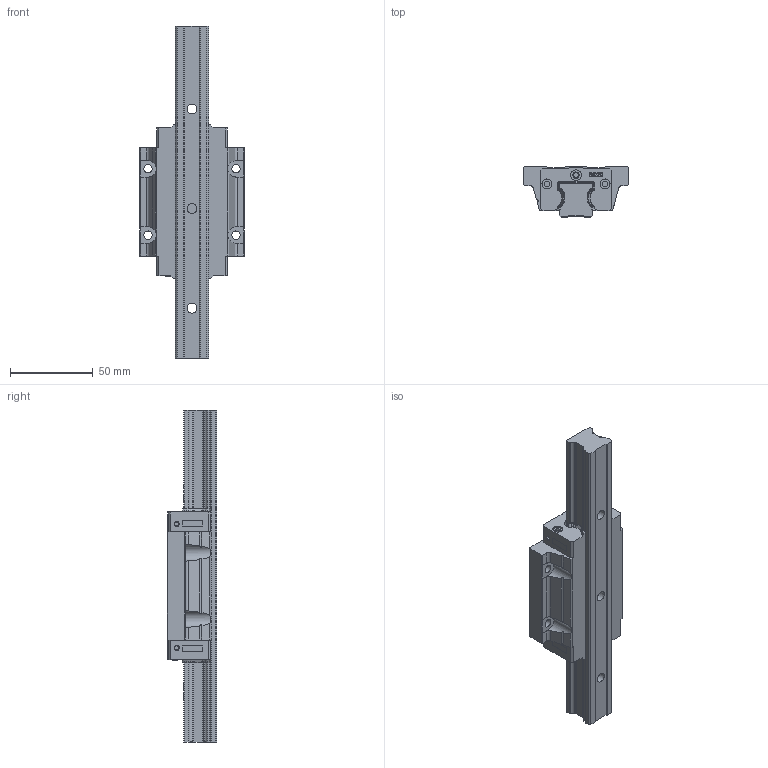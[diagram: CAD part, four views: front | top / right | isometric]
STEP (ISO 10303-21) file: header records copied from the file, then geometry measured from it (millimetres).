
FILE_DESCRIPTION(/* description */ (''),/* implementation_level */ '2;1');
FILE_NAME(/* name */ 'SGH20AL.stp',/* time_stamp */ '2021-05-27T16:15:30+08:00',/* author */ (''),/* organization */ (''),/* preprocessor_version */ 'ST-DEVELOPER v15',/* originating_system */ 'SIEMENS PLM Software NX 8.5',/* authorisation */ '');
FILE_SCHEMA (('CONFIG_CONTROL_DESIGN'));
Length unit declared in the file: millimetre
Products named in the file (1): SGH20AL
Bounding box: 63 x 30 x 200 mm (x, y, z)
Volume: 156558.2 mm3; surface area: 40750.4 mm2
Topology: 2 solids, 2 shells, 484 faces, 1338 edges, 897 vertices
Faces by surface type: plane 210, extrusion 114, cylinder 105, cone 43, bspline 12
Full cylindrical faces by diameter (mm): 2.5 x4, 2.8 x2, 3.3 x4, 3.5 x4, 3.8 x2, 5 x4, 6 x7, 6.5 x2, 9.5 x3
Entity records: 17228 total; most frequent: CARTESIAN_POINT 5521, ORIENTED_EDGE 2534, DIRECTION 2046, EDGE_CURVE 1267, VERTEX_POINT 869, VECTOR 774, LINE 660, AXIS2_PLACEMENT_3D 636
